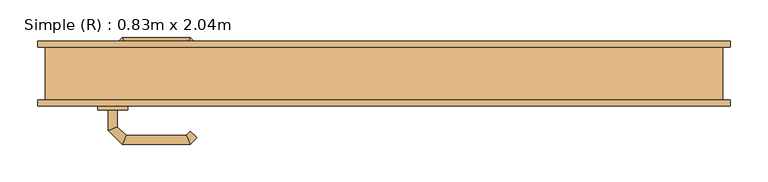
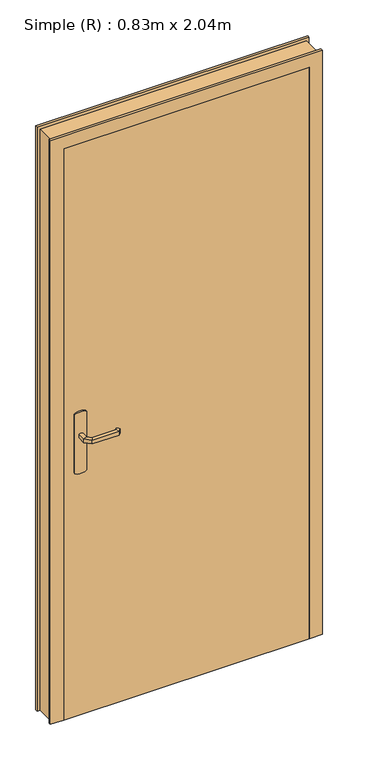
"""IFC4 building model written with IfcOpenShell, lengths in millimetres: door geometry, Simple (R) : 0.83m x 2.04m."""

from ifc_helpers import new_model, si_unit, point, frame, frame_2d, origin, origin_with_axes, place, context, project, spatial, polyline, circle_curve, ellipse_curve, trimmed, segment, composite_curve, outline, extrude, faceted_brep, source, transform, mapped, element, save
from ifc_brep_helpers import plane_surface, cylinder_surface, advanced_brep


def simple_r_0_83m_x_2_04m_17fec2bd(model_context):
    return source(origin(), model_context, "Body", "SolidModel", [
        advanced_brep(
        [(-354.0, 2.0, 993.0), (-354.0, 2.0, 1007.0), (-366.0, 2.0, 1007.0), (-366.0, 2.0, 993.0), (-354.0, 24.4852045, 993.0), (-354.0, 24.4852045, 1007.0), (-366.0, 29.4557673, 1007.0), (-366.0, 29.4557673, 993.0), (-342.5147186, 35.9704859, 993.0), (-342.5147186, 35.9704859, 1007.0), (-347.4852814, 47.9704859, 1007.0), (-347.4852814, 47.9704859, 993.0), (-262.4394977, 35.9704859, 993.0), (-262.4394977, 35.9704859, 1007.0), (-257.468935, 47.9704859, 1007.0), (-257.468935, 47.9704859, 993.0), (-257.1257892, 30.6567774, 993.0), (-248.6405078, 39.1420588, 993.0), (-248.6405078, 39.1420588, 1007.0), (-257.1257892, 30.6567774, 1007.0)],
        [
            (0, 1),
            (1, 2, circle_curve(frame((-360.0, 2.0, 986.9542278), z_axis=(0.0, -1.0, 0.0), x_axis=(-1.0, 0.0, 0.0)), 20.9244589)),
            (2, 3),
            (3, 0, circle_curve(frame((-360.0, 2.0, 1013.0457722), z_axis=(0.0, -1.0, 0.0), x_axis=(-1.0, 0.0, 0.0)), 20.9244589)),
            (0, 4),
            (4, 5),
            (5, 1),
            (5, 6, ellipse_curve(frame((-360.0, 26.9704859, 986.9542278), z_axis=(-0.38268343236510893, -0.9238795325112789, 0.0), x_axis=(0.9238795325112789, -0.3826834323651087, 0.0)), 22.6484711, 20.9244589)),
            (6, 2),
            (6, 7),
            (7, 3),
            (7, 4, ellipse_curve(frame((-360.0, 26.9704859, 1013.0457722), z_axis=(-0.38268343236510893, -0.9238795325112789, 0.0), x_axis=(0.9238795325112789, -0.3826834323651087, 0.0)), 22.6484711, 20.9244589)),
            (4, 8),
            (8, 9),
            (9, 5),
            (9, 10, ellipse_curve(frame((-345.0, 41.9704859, 986.9542278), z_axis=(-0.9238795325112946, -0.38268343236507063, 0.0), x_axis=(0.3826834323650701, -0.9238795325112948, 0.0)), 22.6484711, 20.9244589)),
            (10, 6),
            (10, 11),
            (11, 7),
            (11, 8, ellipse_curve(frame((-345.0, 41.9704859, 1013.0457722), z_axis=(-0.9238795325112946, -0.38268343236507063, 0.0), x_axis=(0.3826834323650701, -0.9238795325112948, 0.0)), 22.6484711, 20.9244589)),
            (8, 12),
            (12, 13),
            (13, 9),
            (13, 14, ellipse_curve(frame((-259.9542163, 41.9704859, 986.9542278), z_axis=(-0.9238795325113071, 0.38268343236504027, 0.0), x_axis=(-0.38268343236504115, -0.9238795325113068, 0.0)), 22.6484711, 20.9244589)),
            (14, 10),
            (14, 15),
            (15, 11),
            (15, 12, ellipse_curve(frame((-259.9542163, 41.9704859, 1013.0457722), z_axis=(-0.9238795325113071, 0.38268343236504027, 0.0), x_axis=(-0.38268343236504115, -0.9238795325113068, 0.0)), 22.6484711, 20.9244589)),
            (16, 17, circle_curve(frame((-252.8831485, 34.8994181, 1013.0457722), z_axis=(0.7071067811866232, -0.7071067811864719, 0.0), x_axis=(0.7071067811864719, 0.7071067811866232, 0.0)), 20.9244589)),
            (17, 18),
            (18, 19, circle_curve(frame((-252.8831485, 34.8994181, 986.9542278), z_axis=(0.7071067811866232, -0.7071067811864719, 0.0), x_axis=(0.7071067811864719, 0.7071067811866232, 0.0)), 20.9244589)),
            (19, 16),
            (12, 16),
            (19, 13),
            (18, 14),
            (17, 15),
        ],
        [
            plane_surface(frame((-369.2195445, 2.0, 1000.0), z_axis=(0.0, -1.0, 0.0), x_axis=(0.0, 0.0, 1.0))),
            plane_surface(frame((-354.0, 2.0, 993.0), z_axis=(1.0, 0.0, 0.0), x_axis=(0.0, 1.0, 0.0))),
            cylinder_surface(frame((-360.0, 2.0, 986.9542278), z_axis=(0.0, -1.0, 0.0), x_axis=(-1.0, 0.0, 0.0)), 20.9244589),
            plane_surface(frame((-366.0, 2.0, 1007.0), z_axis=(-1.0, 0.0, 0.0), x_axis=(0.0, 1.0, 0.0))),
            cylinder_surface(frame((-360.0, 2.0, 1013.0457722), z_axis=(0.0, -1.0, 0.0), x_axis=(-1.0, 0.0, 0.0)), 20.9244589),
            plane_surface(frame((-354.0, 24.4852045, 993.0), z_axis=(0.707106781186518, -0.707106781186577, 0.0), x_axis=(0.707106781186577, 0.707106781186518, 0.0))),
            cylinder_surface(frame((-360.0, 26.9704859, 986.9542278), z_axis=(-0.7071067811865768, -0.7071067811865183, 0.0), x_axis=(-0.7071067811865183, 0.7071067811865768, 0.0)), 20.9244589),
            plane_surface(frame((-366.0, 29.4557673, 1007.0), z_axis=(-0.7071067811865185, 0.7071067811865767, 0.0), x_axis=(0.7071067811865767, 0.7071067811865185, 0.0))),
            cylinder_surface(frame((-360.0, 26.9704859, 1013.0457722), z_axis=(-0.7071067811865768, -0.7071067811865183, 0.0), x_axis=(-0.7071067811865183, 0.7071067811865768, 0.0)), 20.9244589),
            plane_surface(frame((-342.5147186, 35.9704859, 993.0), z_axis=(0.0, -1.0, 0.0), x_axis=(1.0, 0.0, 0.0))),
            cylinder_surface(frame((-345.0, 41.9704859, 986.9542278), z_axis=(-1.0, 0.0, 0.0), x_axis=(0.0, 1.0, 0.0)), 20.9244589),
            plane_surface(frame((-347.4852814, 47.9704859, 1007.0), z_axis=(0.0, 1.0, 0.0), x_axis=(1.0, 0.0, 0.0))),
            cylinder_surface(frame((-345.0, 41.9704859, 1013.0457722), z_axis=(-1.0, 0.0, 0.0), x_axis=(0.0, 1.0, 0.0)), 20.9244589),
            plane_surface(frame((-252.8831485, 34.8994181, 990.7804555), z_axis=(0.7071067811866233, -0.7071067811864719, 0.0), x_axis=(0.7071067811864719, 0.7071067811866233, 0.0))),
            plane_surface(frame((-262.4394977, 35.9704859, 993.0), z_axis=(-0.707106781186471, -0.7071067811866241, 0.0), x_axis=(0.7071067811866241, -0.707106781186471, 0.0))),
            cylinder_surface(frame((-259.9542163, 41.9704859, 986.9542278), z_axis=(-0.7071067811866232, 0.7071067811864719, 0.0), x_axis=(0.7071067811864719, 0.7071067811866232, 0.0)), 20.9244589),
            plane_surface(frame((-257.468935, 47.9704859, 1007.0), z_axis=(0.7071067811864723, 0.7071067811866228, 0.0), x_axis=(0.7071067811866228, -0.7071067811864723, 0.0))),
            cylinder_surface(frame((-259.9542163, 41.9704859, 1013.0457722), z_axis=(-0.7071067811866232, 0.7071067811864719, 0.0), x_axis=(0.7071067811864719, 0.7071067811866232, 0.0)), 20.9244589),
        ],
        [
            (0, [[1, 2, 3, 4]]),
            (1, [[-1, 5, 6, 7]]),
            (2, [[-2, -7, 8, 9]]),
            (3, [[-3, -9, 10, 11]]),
            (4, [[-4, -11, 12, -5]]),
            (5, [[-6, 13, 14, 15]]),
            (6, [[-8, -15, 16, 17]]),
            (7, [[-10, -17, 18, 19]]),
            (8, [[-12, -19, 20, -13]]),
            (9, [[-14, 21, 22, 23]]),
            (10, [[-16, -23, 24, 25]]),
            (11, [[-18, -25, 26, 27]]),
            (12, [[-20, -27, 28, -21]]),
            (13, [[29, 30, 31, 32]]),
            (14, [[-22, 33, -32, 34]]),
            (15, [[-24, -34, -31, 35]]),
            (16, [[-26, -35, -30, 36]]),
            (17, [[-28, -36, -29, -33]]),
        ],
    ),
        advanced_brep(
        [(-366.0, -48.0, 1007.0), (-354.0, -48.0, 1007.0), (-354.0, -48.0, 993.0), (-366.0, -48.0, 993.0), (-366.0, -75.6509507, 1007.0), (-354.0, -70.680388, 1007.0), (-354.0, -70.680388, 993.0), (-366.0, -75.6509507, 993.0), (-347.62279, -94.0281607, 1007.0), (-342.6522273, -82.0281607, 1007.0), (-342.6522273, -82.0281607, 993.0), (-347.62279, -94.0281607, 993.0), (-257.496078, -94.0281607, 1007.0), (-262.4666408, -82.0281607, 1007.0), (-262.4666408, -82.0281607, 993.0), (-257.496078, -94.0281607, 993.0), (-248.6676509, -85.1997336, 1007.0), (-248.6676509, -85.1997336, 993.0), (-257.1529323, -76.7144522, 993.0), (-257.1529323, -76.7144522, 1007.0)],
        [
            (0, 1, circle_curve(frame((-360.0, -48.0, 986.9542278), z_axis=(0.0, 1.0, 0.0), x_axis=(1.0, 0.0, 0.0)), 20.9244589)),
            (1, 2),
            (2, 3, circle_curve(frame((-360.0, -48.0, 1013.0457722), z_axis=(0.0, 1.0, 0.0), x_axis=(1.0, 0.0, 0.0)), 20.9244589)),
            (3, 0),
            (0, 4),
            (4, 5, ellipse_curve(frame((-360.0, -73.1656693, 986.9542278), z_axis=(-0.3826834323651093, 0.9238795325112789, 0.0), x_axis=(0.9238795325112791, 0.38268343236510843, 0.0)), 22.6484711, 20.9244589)),
            (5, 1),
            (5, 6),
            (6, 2),
            (6, 7, ellipse_curve(frame((-360.0, -73.1656693, 1013.0457722), z_axis=(-0.3826834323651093, 0.9238795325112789, 0.0), x_axis=(0.9238795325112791, 0.38268343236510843, 0.0)), 22.6484711, 20.9244589)),
            (7, 3),
            (7, 4),
            (4, 8),
            (8, 9, ellipse_curve(frame((-345.1375086, -88.0281607, 986.9542278), z_axis=(-0.9238795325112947, 0.38268343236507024, 0.0), x_axis=(0.3826834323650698, 0.9238795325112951, 0.0)), 22.6484711, 20.9244589)),
            (9, 5),
            (9, 10),
            (10, 6),
            (10, 11, ellipse_curve(frame((-345.1375086, -88.0281607, 1013.0457722), z_axis=(-0.9238795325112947, 0.38268343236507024, 0.0), x_axis=(0.3826834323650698, 0.9238795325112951, 0.0)), 22.6484711, 20.9244589)),
            (11, 7),
            (11, 8),
            (8, 12),
            (12, 13, ellipse_curve(frame((-259.9813594, -88.0281607, 986.9542278), z_axis=(-0.9238795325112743, -0.3826834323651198, 0.0), x_axis=(-0.38268343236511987, 0.9238795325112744, 0.0)), 22.6484711, 20.9244589)),
            (13, 9),
            (13, 14),
            (14, 10),
            (14, 15, ellipse_curve(frame((-259.9813594, -88.0281607, 1013.0457722), z_axis=(-0.9238795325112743, -0.3826834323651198, 0.0), x_axis=(-0.38268343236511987, 0.9238795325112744, 0.0)), 22.6484711, 20.9244589)),
            (15, 11),
            (15, 12),
            (16, 17),
            (17, 18, circle_curve(frame((-252.9102916, -80.9570929, 1013.0457722), z_axis=(0.7071067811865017, 0.7071067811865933, 0.0), x_axis=(-0.7071067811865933, 0.7071067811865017, 0.0)), 20.9244589)),
            (18, 19),
            (19, 16, circle_curve(frame((-252.9102916, -80.9570929, 986.9542278), z_axis=(0.7071067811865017, 0.7071067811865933, 0.0), x_axis=(-0.7071067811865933, 0.7071067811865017, 0.0)), 20.9244589)),
            (12, 16),
            (19, 13),
            (18, 14),
            (17, 15),
        ],
        [
            plane_surface(frame((-369.2195445, -48.0, 1000.0), z_axis=(0.0, 1.0, 0.0), x_axis=(0.0, 0.0, -1.0))),
            cylinder_surface(frame((-360.0, -48.0, 986.9542278), z_axis=(0.0, 1.0, 0.0), x_axis=(1.0, 0.0, 0.0)), 20.9244589),
            plane_surface(frame((-354.0, -48.0, 1007.0), z_axis=(1.0, 0.0, 0.0), x_axis=(0.0, -1.0, 0.0))),
            cylinder_surface(frame((-360.0, -48.0, 1013.0457722), z_axis=(0.0, 1.0, 0.0), x_axis=(1.0, 0.0, 0.0)), 20.9244589),
            plane_surface(frame((-366.0, -48.0, 993.0), z_axis=(-1.0, 0.0, 0.0), x_axis=(0.0, -1.0, 0.0))),
            cylinder_surface(frame((-360.0, -73.1656693, 986.9542278), z_axis=(-0.7071067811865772, 0.7071067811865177, 0.0), x_axis=(0.7071067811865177, 0.7071067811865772, 0.0)), 20.9244589),
            plane_surface(frame((-354.0, -70.680388, 1007.0), z_axis=(0.7071067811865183, 0.7071067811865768, 0.0), x_axis=(0.7071067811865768, -0.7071067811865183, 0.0))),
            cylinder_surface(frame((-360.0, -73.1656693, 1013.0457722), z_axis=(-0.7071067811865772, 0.7071067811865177, 0.0), x_axis=(0.7071067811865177, 0.7071067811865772, 0.0)), 20.9244589),
            plane_surface(frame((-366.0, -75.6509507, 993.0), z_axis=(-0.707106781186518, -0.707106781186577, 0.0), x_axis=(0.707106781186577, -0.707106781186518, 0.0))),
            cylinder_surface(frame((-345.1375086, -88.0281607, 986.9542278), z_axis=(-1.0, 0.0, 0.0), x_axis=(0.0, 1.0, 0.0)), 20.9244589),
            plane_surface(frame((-342.6522273, -82.0281607, 1007.0), z_axis=(0.0, 1.0, 0.0), x_axis=(1.0, 0.0, 0.0))),
            cylinder_surface(frame((-345.1375086, -88.0281607, 1013.0457722), z_axis=(-1.0, 0.0, 0.0), x_axis=(0.0, 1.0, 0.0)), 20.9244589),
            plane_surface(frame((-347.62279, -94.0281607, 993.0), z_axis=(0.0, -1.0, 0.0), x_axis=(1.0, 0.0, 0.0))),
            plane_surface(frame((-252.9102916, -80.9570929, 1009.2195445), z_axis=(0.7071067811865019, 0.7071067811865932, 0.0), x_axis=(0.7071067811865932, -0.7071067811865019, 0.0))),
            cylinder_surface(frame((-259.9813594, -88.0281607, 986.9542278), z_axis=(-0.7071067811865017, -0.7071067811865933, 0.0), x_axis=(-0.7071067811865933, 0.7071067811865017, 0.0)), 20.9244589),
            plane_surface(frame((-262.4666408, -82.0281607, 1007.0), z_axis=(-0.7071067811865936, 0.7071067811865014, 0.0), x_axis=(0.7071067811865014, 0.7071067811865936, 0.0))),
            cylinder_surface(frame((-259.9813594, -88.0281607, 1013.0457722), z_axis=(-0.7071067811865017, -0.7071067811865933, 0.0), x_axis=(-0.7071067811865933, 0.7071067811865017, 0.0)), 20.9244589),
            plane_surface(frame((-257.496078, -94.0281607, 993.0), z_axis=(0.707106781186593, -0.7071067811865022, 0.0), x_axis=(0.7071067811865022, 0.707106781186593, 0.0))),
        ],
        [
            (0, [[1, 2, 3, 4]]),
            (1, [[-1, 5, 6, 7]]),
            (2, [[-2, -7, 8, 9]]),
            (3, [[-3, -9, 10, 11]]),
            (4, [[-4, -11, 12, -5]]),
            (5, [[-6, 13, 14, 15]]),
            (6, [[-8, -15, 16, 17]]),
            (7, [[-10, -17, 18, 19]]),
            (8, [[-12, -19, 20, -13]]),
            (9, [[-14, 21, 22, 23]]),
            (10, [[-16, -23, 24, 25]]),
            (11, [[-18, -25, 26, 27]]),
            (12, [[-20, -27, 28, -21]]),
            (13, [[29, 30, 31, 32]]),
            (14, [[-22, 33, -32, 34]]),
            (15, [[-24, -34, -31, 35]]),
            (16, [[-26, -35, -30, 36]]),
            (17, [[-28, -36, -29, -33]]),
        ],
    ),
        extrude(outline(composite_curve([segment(trimmed(circle_curve(frame_2d((1045.3589838, -360.0)), 40.0), [point((1080.0, -340.0))], [point((1080.0, -380.0))], False, "CARTESIAN"), True, "CONTINUOUS"), segment(polyline([(1080.0, -380.0), (870.0, -380.0)]), True, "CONTINUOUS"), segment(trimmed(circle_curve(frame_2d((904.6410162, -360.0)), 40.0), [point((870.0, -380.0))], [point((870.0, -340.0))], False, "CARTESIAN"), True, "CONTINUOUS"), segment(polyline([(870.0, -340.0), (1080.0, -340.0)]), True, "CONTINUOUS")], self_intersect=False)), frame((0.0, -3.0, 0.0), z_axis=(0.0, 1.0, 0.0), x_axis=(0.0, 0.0, 1.0)), (0.0, 0.0, 1.0), 5.0),
        extrude(outline(composite_curve([segment(trimmed(circle_curve(frame_2d((904.6410162, -360.0)), 40.0), [point((870.0, -380.0))], [point((870.0, -340.0))], False, "CARTESIAN"), True, "CONTINUOUS"), segment(polyline([(870.0, -340.0), (1080.0, -340.0)]), True, "CONTINUOUS"), segment(trimmed(circle_curve(frame_2d((1045.3589838, -360.0)), 40.0), [point((1080.0, -340.0))], [point((1080.0, -380.0))], False, "CARTESIAN"), True, "CONTINUOUS"), segment(polyline([(1080.0, -380.0), (870.0, -380.0)]), True, "CONTINUOUS")], self_intersect=False)), frame((0.0, -48.0, 0.0), z_axis=(0.0, 1.0, 0.0), x_axis=(0.0, 0.0, 1.0)), (0.0, 0.0, 1.0), 5.0),
        faceted_brep([(-450.0, -35.0, 0.0), (-450.0, 35.0, 0.0), (-460.0, 35.0, 0.0), (-460.0, 43.0, 0.0), (-400.0, 43.0, 0.0), (-400.0, -3.0, 0.0), (-415.0, -3.0, 0.0), (-415.0, -43.0, 0.0), (-460.0, -43.0, 0.0), (-460.0, -35.0, 0.0), (-450.0, -35.0, 2075.0), (-450.0, 35.0, 2075.0), (450.0, 35.0, 2075.0), (450.0, 35.0, 0.0), (460.0, 35.0, 0.0), (460.0, 35.0, 2085.0), (-460.0, 35.0, 2085.0), (-460.0, 43.0, 2085.0), (460.0, 43.0, 2085.0), (460.0, 43.0, 0.0), (400.0, 43.0, 0.0), (400.0, 43.0, 2025.0), (-400.0, 43.0, 2025.0), (-400.0, -3.0, 2025.0), (400.0, -3.0, 2025.0), (400.0, -3.0, 0.0), (415.0, -3.0, 0.0), (415.0, -3.0, 2040.0), (-415.0, -3.0, 2040.0), (-415.0, -43.0, 2040.0), (415.0, -43.0, 2040.0), (415.0, -43.0, 0.0), (460.0, -43.0, 0.0), (460.0, -43.0, 2085.0), (-460.0, -43.0, 2085.0), (-460.0, -35.0, 2085.0), (460.0, -35.0, 2085.0), (460.0, -35.0, 0.0), (450.0, -35.0, 0.0), (450.0, -35.0, 2075.0)], [[[0, 1, 2, 3, 4, 5, 6, 7, 8, 9]], [[1, 0, 10, 11]], [[2, 1, 11, 12, 13, 14, 15, 16]], [[3, 2, 16, 17]], [[4, 3, 17, 18, 19, 20, 21, 22]], [[5, 4, 22, 23]], [[6, 5, 23, 24, 25, 26, 27, 28]], [[7, 6, 28, 29]], [[8, 7, 29, 30, 31, 32, 33, 34]], [[9, 8, 34, 35]], [[0, 9, 35, 36, 37, 38, 39, 10]], [[11, 10, 39, 12]], [[17, 16, 15, 18]], [[23, 22, 21, 24]], [[29, 28, 27, 30]], [[35, 34, 33, 36]], [[38, 37, 32, 31, 26, 25, 20, 19, 14, 13]], [[12, 39, 38, 13]], [[18, 15, 14, 19]], [[24, 21, 20, 25]], [[30, 27, 26, 31]], [[36, 33, 32, 37]]]),
        extrude(outline(polyline([(415.0, -43.0), (-415.0, -43.0), (-415.0, -3.0), (415.0, -3.0), (415.0, -43.0)])), origin_with_axes(), (0.0, 0.0, 1.0), 2040.0),
    ])


if __name__ == "__main__":
    model = new_model("IFC4")
    model_context = context("Model", 3, world=origin())
    ifc_project = project(units=[si_unit("LENGTHUNIT", "METRE", prefix="MILLI")], contexts=[model_context])
    site = spatial("IfcSite", under=ifc_project)
    building = spatial("IfcBuilding", under=site)
    placement = place(None, origin())
    simple_r_0_83m_x_2_04m_shape = simple_r_0_83m_x_2_04m_17fec2bd(model_context)
    element("IfcDoor", 1, ObjectType="Simple (R) : 0.83m x 2.04m", at=placement, inside=building, context=model_context, shape_type="MappedRepresentation", body=[
        mapped(simple_r_0_83m_x_2_04m_shape, transform((0.0, 0.0, 0.0), x_axis=(1.0, 0.0, 0.0), y_axis=(0.0, 1.0, 0.0), z_axis=(0.0, 0.0, 1.0))),
    ])
    save(model, "model.ifc")
